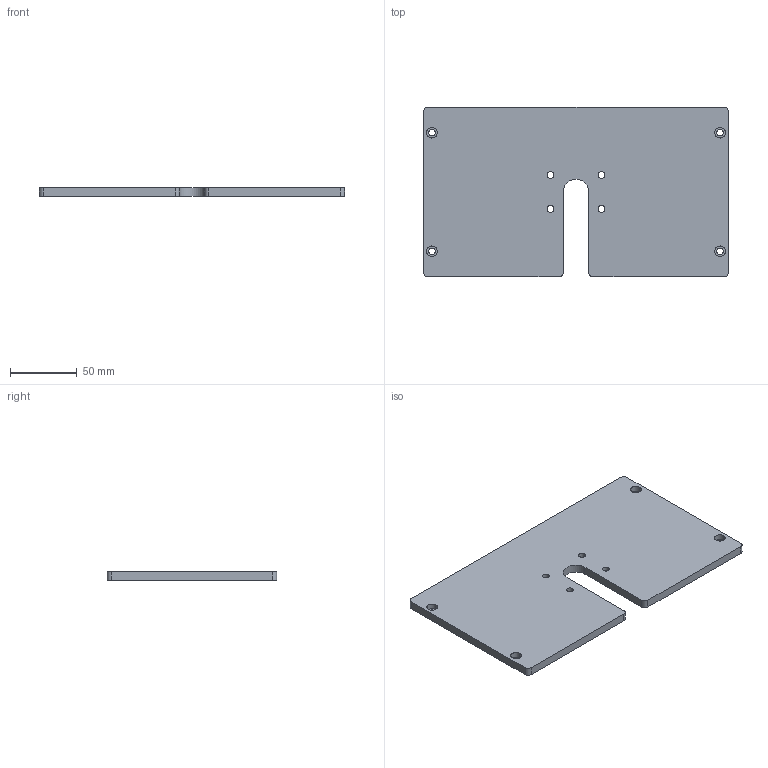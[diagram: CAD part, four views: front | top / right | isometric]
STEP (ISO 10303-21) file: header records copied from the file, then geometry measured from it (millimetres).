
FILE_DESCRIPTION (( 'STEP AP214' ), '1' );
FILE_NAME ('AFSB-610-S.STEP', '2018-11-13T15:58:16', ( '' ), ( '' ), 'SwSTEP 2.0', 'SolidWorks 2018', '' );
FILE_SCHEMA (( 'AUTOMOTIVE_DESIGN' ));
Length unit declared in the file: inch
Products named in the file (2): AFSB-610-S
Bounding box: 228.6 x 127 x 6.35 mm (x, y, z)
Volume: 174136.8 mm3; surface area: 61326.2 mm2
Topology: 1 solids, 1 shells, 44 faces, 114 edges, 76 vertices
Faces by surface type: cylinder 31, plane 13
Entity records: 1571 total; most frequent: DIRECTION 268, CARTESIAN_POINT 236, ORIENTED_EDGE 228, EDGE_CURVE 114, AXIS2_PLACEMENT_3D 108, VERTEX_POINT 76, EDGE_LOOP 64, CIRCLE 62
